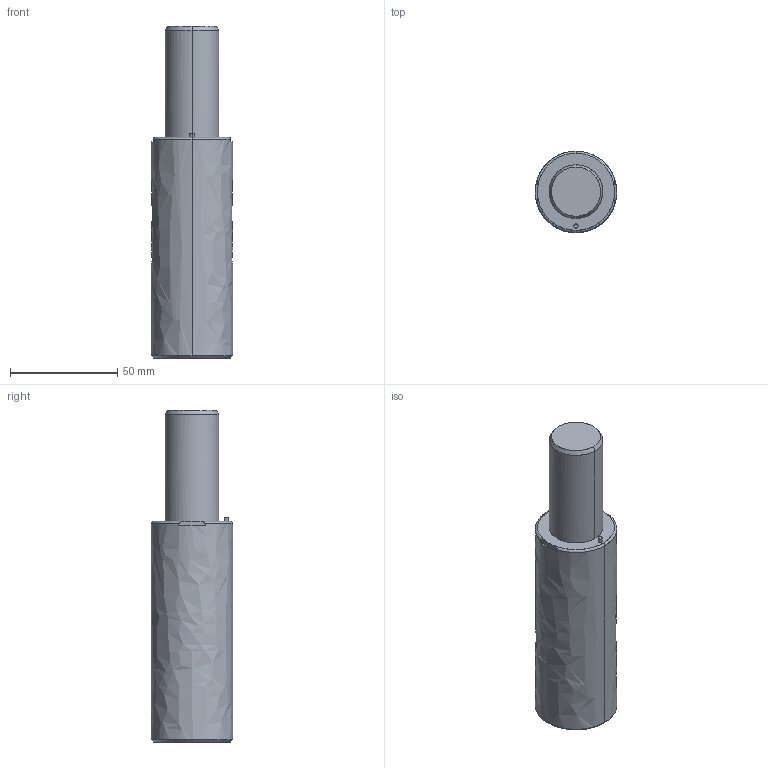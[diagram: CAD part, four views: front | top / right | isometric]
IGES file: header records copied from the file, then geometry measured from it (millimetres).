
Global section: file name: E:\UnigraphicsGraphicData\MISUMI_PRESS-PARTS\IGES\3d_gsx38-50_03987_r00.igs; native system: NX V5.0; preprocessor: UGS NX IGES V5.0; author: MISUMI; date: 20110105.160825; units: millimetre
Bounding box: 38 x 38 x 155 mm (x, y, z)
Surface area: 19769.5 mm2 (no closed solid volume)
Topology: 0 solids, 0 shells, 59 faces, 414 edges, 406 vertices
Faces by surface type: bspline 59
